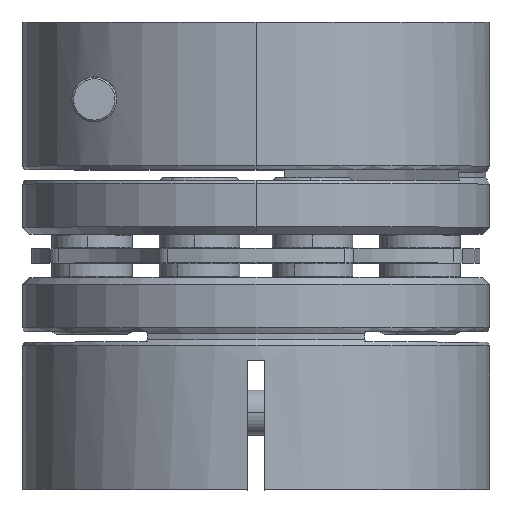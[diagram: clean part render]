
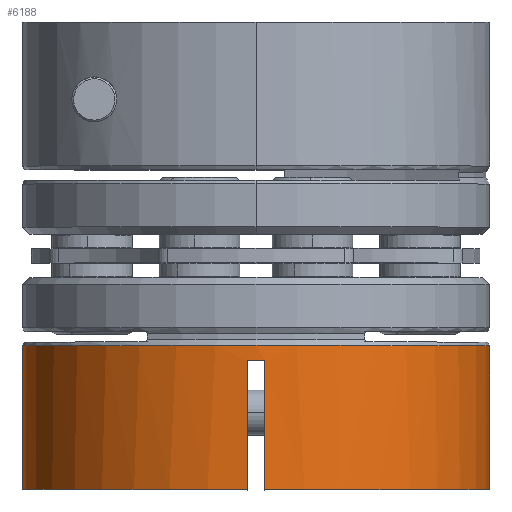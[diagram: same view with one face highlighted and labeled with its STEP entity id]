
A CAD part, top view. The second image highlights one B-rep face of the part: STEP entity #6188.
In plain terms, the highlighted cylindrical face has radius 13 mm (diameter 26 mm), a partial arc.
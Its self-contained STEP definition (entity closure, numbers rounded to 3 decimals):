
#311 = LINE ( 'NONE', #2828, #19515 ) ;
#1712 = CARTESIAN_POINT ( 'NONE',  ( 1.589, -19.16, 13.003 ) ) ;
#1998 = ORIENTED_EDGE ( 'NONE', *, *, #11639, .F. ) ;
#1999 = DIRECTION ( 'NONE',  ( 0., 1., 0. ) ) ;
#2077 = CARTESIAN_POINT ( 'NONE',  ( 1.755, -56.94, 0. ) ) ;
#2238 = EDGE_CURVE ( 'NONE', #22554, #11678, #19481, .T. ) ;
#2704 = VECTOR ( 'NONE', #19324, 1000. ) ;
#2774 = AXIS2_PLACEMENT_3D ( 'NONE', #10231, #17368, #19002 ) ;
#2828 = CARTESIAN_POINT ( 'NONE',  ( 1.255, -14.489, 12.99 ) ) ;
#3392 = CARTESIAN_POINT ( 'NONE',  ( -11.245, -56.94, 0. ) ) ;
#3945 = ORIENTED_EDGE ( 'NONE', *, *, #21117, .T. ) ;
#5248 = CARTESIAN_POINT ( 'NONE',  ( -11.245, -26.289, 0. ) ) ;
#5593 = EDGE_CURVE ( 'NONE', #22554, #22820, #19707, .T. ) ;
#6188 = ADVANCED_FACE ( 'NONE', ( #13276 ), #16643, .T. ) ;
#6676 = EDGE_CURVE ( 'NONE', #16716, #22820, #14382, .T. ) ;
#6938 = CARTESIAN_POINT ( 'NONE',  ( 1.755, -26.289, 0. ) ) ;
#7085 = AXIS2_PLACEMENT_3D ( 'NONE', #6938, #10537, #10667 ) ;
#7227 = ORIENTED_EDGE ( 'NONE', *, *, #13226, .T. ) ;
#7339 = CARTESIAN_POINT ( 'NONE',  ( 1.755, -18.289, 0. ) ) ;
#7488 = DIRECTION ( 'NONE',  ( -1., 0., 0. ) ) ;
#7654 = B_SPLINE_CURVE_WITH_KNOTS ( 'NONE', 3,
 ( #23047, #1712, #15878, #15963 ),
 .UNSPECIFIED., .F., .F.,
 ( 4, 4 ),
 ( 0., 0.001 ),
 .UNSPECIFIED. ) ;
#8382 = CIRCLE ( 'NONE', #2774, 13. ) ;
#8433 = CARTESIAN_POINT ( 'NONE',  ( 2.255, -26.289, 12.99 ) ) ;
#9668 = CARTESIAN_POINT ( 'NONE',  ( 1.255, -19.154, 12.99 ) ) ;
#9731 = DIRECTION ( 'NONE',  ( 0., -1., 0. ) ) ;
#10231 = CARTESIAN_POINT ( 'NONE',  ( 1.755, -26.289, 0. ) ) ;
#10275 = EDGE_LOOP ( 'NONE', ( #16886, #20959, #15579, #17998, #1998, #12420, #7227, #3945 ) ) ;
#10503 = VERTEX_POINT ( 'NONE', #11915 ) ;
#10537 = DIRECTION ( 'NONE',  ( 0., -1., 0. ) ) ;
#10667 = DIRECTION ( 'NONE',  ( 1., 0., 0. ) ) ;
#11543 = EDGE_CURVE ( 'NONE', #14538, #12515, #311, .T. ) ;
#11567 = DIRECTION ( 'NONE',  ( 0., -1., 0. ) ) ;
#11639 = EDGE_CURVE ( 'NONE', #12515, #14267, #8382, .T. ) ;
#11678 = VERTEX_POINT ( 'NONE', #8433 ) ;
#11915 = CARTESIAN_POINT ( 'NONE',  ( 2.255, -19.154, 12.99 ) ) ;
#11928 = VECTOR ( 'NONE', #14331, 1000. ) ;
#12041 = CARTESIAN_POINT ( 'NONE',  ( -11.245, -18.289, 0. ) ) ;
#12420 = ORIENTED_EDGE ( 'NONE', *, *, #11543, .F. ) ;
#12515 = VERTEX_POINT ( 'NONE', #16874 ) ;
#13226 = EDGE_CURVE ( 'NONE', #14538, #10503, #7654, .T. ) ;
#13276 = FACE_OUTER_BOUND ( 'NONE', #10275, .T. ) ;
#13733 = EDGE_CURVE ( 'NONE', #14267, #16716, #18577, .T. ) ;
#14267 = VERTEX_POINT ( 'NONE', #5248 ) ;
#14331 = DIRECTION ( 'NONE',  ( 0., 1., 0. ) ) ;
#14382 = CIRCLE ( 'NONE', #15212, 13. ) ;
#14538 = VERTEX_POINT ( 'NONE', #9668 ) ;
#14880 = CARTESIAN_POINT ( 'NONE',  ( 14.755, -18.289, 0. ) ) ;
#15212 = AXIS2_PLACEMENT_3D ( 'NONE', #7339, #19778, #7488 ) ;
#15579 = ORIENTED_EDGE ( 'NONE', *, *, #6676, .F. ) ;
#15878 = CARTESIAN_POINT ( 'NONE',  ( 1.922, -19.16, 13.003 ) ) ;
#15962 = AXIS2_PLACEMENT_3D ( 'NONE', #2077, #1999, #17862 ) ;
#15963 = CARTESIAN_POINT ( 'NONE',  ( 2.255, -19.154, 12.99 ) ) ;
#16201 = CARTESIAN_POINT ( 'NONE',  ( 14.755, -56.94, 0. ) ) ;
#16557 = VECTOR ( 'NONE', #9731, 1000. ) ;
#16643 = CYLINDRICAL_SURFACE ( 'NONE', #15962, 13. ) ;
#16716 = VERTEX_POINT ( 'NONE', #12041 ) ;
#16874 = CARTESIAN_POINT ( 'NONE',  ( 1.255, -26.289, 12.99 ) ) ;
#16886 = ORIENTED_EDGE ( 'NONE', *, *, #2238, .F. ) ;
#17368 = DIRECTION ( 'NONE',  ( 0., -1., 0. ) ) ;
#17862 = DIRECTION ( 'NONE',  ( -1., 0., 0. ) ) ;
#17998 = ORIENTED_EDGE ( 'NONE', *, *, #13733, .F. ) ;
#18577 = LINE ( 'NONE', #3392, #2704 ) ;
#19002 = DIRECTION ( 'NONE',  ( 1., 0., 0. ) ) ;
#19324 = DIRECTION ( 'NONE',  ( 0., 1., 0. ) ) ;
#19481 = CIRCLE ( 'NONE', #7085, 13. ) ;
#19515 = VECTOR ( 'NONE', #11567, 1000. ) ;
#19707 = LINE ( 'NONE', #16201, #11928 ) ;
#19762 = CARTESIAN_POINT ( 'NONE',  ( 14.755, -26.289, 0. ) ) ;
#19778 = DIRECTION ( 'NONE',  ( 0., 1., 0. ) ) ;
#20381 = CARTESIAN_POINT ( 'NONE',  ( 2.255, -14.489, 12.99 ) ) ;
#20959 = ORIENTED_EDGE ( 'NONE', *, *, #5593, .T. ) ;
#21117 = EDGE_CURVE ( 'NONE', #10503, #11678, #22967, .T. ) ;
#22554 = VERTEX_POINT ( 'NONE', #19762 ) ;
#22820 = VERTEX_POINT ( 'NONE', #14880 ) ;
#22967 = LINE ( 'NONE', #20381, #16557 ) ;
#23047 = CARTESIAN_POINT ( 'NONE',  ( 1.255, -19.154, 12.99 ) ) ;
